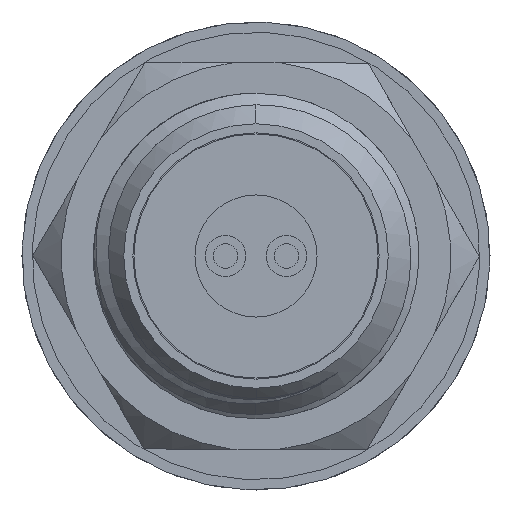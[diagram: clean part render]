
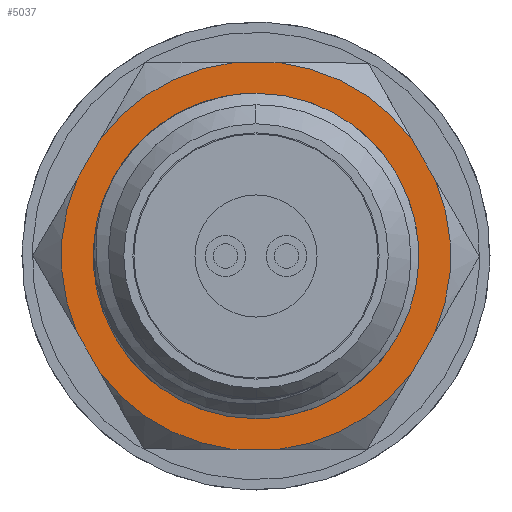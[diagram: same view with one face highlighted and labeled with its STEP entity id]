
A CAD part, left-side view. The second image highlights one B-rep face of the part: STEP entity #5037.
In plain terms, the highlighted planar face has unit normal (-1, 0, 0) as drawn and (0, 0, 1) by its records, which use the part's own axes.
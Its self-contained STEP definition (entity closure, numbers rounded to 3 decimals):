
#78 = AXIS2_PLACEMENT_3D ( 'NONE', #2115, #8845, #3084 ) ;
#406 = CIRCLE ( 'NONE', #7717, 4. ) ;
#616 = ORIENTED_EDGE ( 'NONE', *, *, #5796, .T. ) ;
#618 = CARTESIAN_POINT ( 'NONE',  ( -4., 0., 2. ) ) ;
#647 = VERTEX_POINT ( 'NONE', #9474 ) ;
#760 = DIRECTION ( 'NONE',  ( 0., 0., 1. ) ) ;
#1128 = LINE ( 'NONE', #11192, #3363 ) ;
#1167 = CIRCLE ( 'NONE', #11094, 4.785 ) ;
#1191 = EDGE_CURVE ( 'NONE', #11139, #6913, #2626, .T. ) ;
#1265 = EDGE_CURVE ( 'NONE', #10289, #9952, #6810, .T. ) ;
#1335 = EDGE_CURVE ( 'NONE', #10513, #9229, #1128, .T. ) ;
#1360 = ORIENTED_EDGE ( 'NONE', *, *, #8285, .F. ) ;
#1557 = VERTEX_POINT ( 'NONE', #3845 ) ;
#1570 = ORIENTED_EDGE ( 'NONE', *, *, #11504, .T. ) ;
#1582 = CARTESIAN_POINT ( 'NONE',  ( 4.75, -0.576, 2. ) ) ;
#1669 = ORIENTED_EDGE ( 'NONE', *, *, #1191, .T. ) ;
#1686 = CARTESIAN_POINT ( 'NONE',  ( 0., 0., 2. ) ) ;
#1731 = VERTEX_POINT ( 'NONE', #8967 ) ;
#1994 = VECTOR ( 'NONE', #10614, 1000. ) ;
#2013 = DIRECTION ( 'NONE',  ( 0., 0., -1. ) ) ;
#2115 = CARTESIAN_POINT ( 'NONE',  ( 0., 0., 2. ) ) ;
#2125 = ORIENTED_EDGE ( 'NONE', *, *, #1265, .F. ) ;
#2452 = CARTESIAN_POINT ( 'NONE',  ( 0., 0., 2. ) ) ;
#2609 = LINE ( 'NONE', #6736, #4873 ) ;
#2615 = DIRECTION ( 'NONE',  ( 0., 0., 1. ) ) ;
#2626 = CIRCLE ( 'NONE', #10305, 4.785 ) ;
#2864 = DIRECTION ( 'NONE',  ( 0., 0., -1. ) ) ;
#2957 = ORIENTED_EDGE ( 'NONE', *, *, #12195, .T. ) ;
#3043 = EDGE_LOOP ( 'NONE', ( #3605, #5418, #5374, #2957, #4733, #1669, #6811, #1570, #8019, #11392, #616, #6307 ) ) ;
#3044 = LINE ( 'NONE', #11042, #5573 ) ;
#3045 = CARTESIAN_POINT ( 'NONE',  ( -4.75, 2.742, 2. ) ) ;
#3084 = DIRECTION ( 'NONE',  ( -1., 0., 0. ) ) ;
#3087 = CARTESIAN_POINT ( 'NONE',  ( -4.75, -0.576, 2. ) ) ;
#3195 = CARTESIAN_POINT ( 'NONE',  ( -1.876, -4.402, 2. ) ) ;
#3251 = CARTESIAN_POINT ( 'NONE',  ( 0., 0., 2. ) ) ;
#3356 = CARTESIAN_POINT ( 'NONE',  ( 4.75, 0.576, 2. ) ) ;
#3363 = VECTOR ( 'NONE', #8237, 1000. ) ;
#3399 = DIRECTION ( 'NONE',  ( -1., 0., 0. ) ) ;
#3499 = CARTESIAN_POINT ( 'NONE',  ( 4.75, -2.742, 2. ) ) ;
#3605 = ORIENTED_EDGE ( 'NONE', *, *, #5080, .T. ) ;
#3688 = DIRECTION ( 'NONE',  ( 1., 0., 0. ) ) ;
#3698 = CARTESIAN_POINT ( 'NONE',  ( 2.874, 3.825, 2. ) ) ;
#3845 = CARTESIAN_POINT ( 'NONE',  ( 1.876, 4.402, 2. ) ) ;
#3952 = VERTEX_POINT ( 'NONE', #11825 ) ;
#4215 = DIRECTION ( 'NONE',  ( -1., 0., 0. ) ) ;
#4273 = AXIS2_PLACEMENT_3D ( 'NONE', #1686, #2615, #3688 ) ;
#4484 = DIRECTION ( 'NONE',  ( 0., 0., 1. ) ) ;
#4733 = ORIENTED_EDGE ( 'NONE', *, *, #12392, .T. ) ;
#4745 = CIRCLE ( 'NONE', #11997, 4.785 ) ;
#4782 = CARTESIAN_POINT ( 'NONE',  ( -4.75, 0.576, 2. ) ) ;
#4873 = VECTOR ( 'NONE', #8752, 1000. ) ;
#4899 = DIRECTION ( 'NONE',  ( 0., -1., 0. ) ) ;
#5037 = ADVANCED_FACE ( 'NONE', ( #5985, #8265 ), #8695, .F. ) ;
#5080 = EDGE_CURVE ( 'NONE', #5747, #11288, #9683, .T. ) ;
#5107 = CIRCLE ( 'NONE', #78, 4.785 ) ;
#5282 = EDGE_CURVE ( 'NONE', #6233, #1557, #3044, .T. ) ;
#5374 = ORIENTED_EDGE ( 'NONE', *, *, #1335, .T. ) ;
#5418 = ORIENTED_EDGE ( 'NONE', *, *, #11394, .T. ) ;
#5515 = DIRECTION ( 'NONE',  ( 0., 0., 1. ) ) ;
#5573 = VECTOR ( 'NONE', #9037, 1000. ) ;
#5747 = VERTEX_POINT ( 'NONE', #4782 ) ;
#5789 = CARTESIAN_POINT ( 'NONE',  ( 0., 5.485, 2. ) ) ;
#5796 = EDGE_CURVE ( 'NONE', #1731, #3952, #7072, .T. ) ;
#5827 = CARTESIAN_POINT ( 'NONE',  ( 4., 0., 2. ) ) ;
#5985 = FACE_BOUND ( 'NONE', #9505, .T. ) ;
#6200 = AXIS2_PLACEMENT_3D ( 'NONE', #11558, #2013, #8732 ) ;
#6233 = VERTEX_POINT ( 'NONE', #3698 ) ;
#6307 = ORIENTED_EDGE ( 'NONE', *, *, #9013, .F. ) ;
#6486 = CARTESIAN_POINT ( 'NONE',  ( 0., 0., 2. ) ) ;
#6630 = AXIS2_PLACEMENT_3D ( 'NONE', #2452, #9188, #3399 ) ;
#6647 = CARTESIAN_POINT ( 'NONE',  ( 2.874, -3.825, 2. ) ) ;
#6736 = CARTESIAN_POINT ( 'NONE',  ( 0., -5.485, 2. ) ) ;
#6810 = CIRCLE ( 'NONE', #4273, 4. ) ;
#6811 = ORIENTED_EDGE ( 'NONE', *, *, #10022, .T. ) ;
#6913 = VERTEX_POINT ( 'NONE', #1582 ) ;
#7072 = LINE ( 'NONE', #5789, #1994 ) ;
#7088 = VECTOR ( 'NONE', #4899, 1000. ) ;
#7462 = DIRECTION ( 'NONE',  ( -1., 0., 0. ) ) ;
#7536 = EDGE_CURVE ( 'NONE', #1557, #1731, #5107, .T. ) ;
#7717 = AXIS2_PLACEMENT_3D ( 'NONE', #10237, #4484, #11207 ) ;
#8019 = ORIENTED_EDGE ( 'NONE', *, *, #5282, .T. ) ;
#8237 = DIRECTION ( 'NONE',  ( 0.866, -0.5, 0. ) ) ;
#8265 = FACE_OUTER_BOUND ( 'NONE', #3043, .T. ) ;
#8285 = EDGE_CURVE ( 'NONE', #9952, #10289, #406, .T. ) ;
#8290 = CARTESIAN_POINT ( 'NONE',  ( -2.874, -3.825, 2. ) ) ;
#8399 = DIRECTION ( 'NONE',  ( -1., 0., 0. ) ) ;
#8642 = CIRCLE ( 'NONE', #11867, 4.785 ) ;
#8643 = CARTESIAN_POINT ( 'NONE',  ( 0., 0., 2. ) ) ;
#8695 = PLANE ( 'NONE',  #6200 ) ;
#8732 = DIRECTION ( 'NONE',  ( -1., 0., 0. ) ) ;
#8752 = DIRECTION ( 'NONE',  ( 0.866, 0.5, 0. ) ) ;
#8845 = DIRECTION ( 'NONE',  ( 0., 0., 1. ) ) ;
#8967 = CARTESIAN_POINT ( 'NONE',  ( -1.876, 4.402, 2. ) ) ;
#9013 = EDGE_CURVE ( 'NONE', #5747, #3952, #1167, .T. ) ;
#9037 = DIRECTION ( 'NONE',  ( -0.866, 0.5, 0. ) ) ;
#9188 = DIRECTION ( 'NONE',  ( 0., 0., 1. ) ) ;
#9229 = VERTEX_POINT ( 'NONE', #3195 ) ;
#9258 = CIRCLE ( 'NONE', #6630, 4.785 ) ;
#9474 = CARTESIAN_POINT ( 'NONE',  ( 1.876, -4.402, 2. ) ) ;
#9505 = EDGE_LOOP ( 'NONE', ( #2125, #1360 ) ) ;
#9606 = DIRECTION ( 'NONE',  ( -1., 0., 0. ) ) ;
#9683 = LINE ( 'NONE', #3045, #7088 ) ;
#9728 = CARTESIAN_POINT ( 'NONE',  ( 0., 0., 2. ) ) ;
#9878 = LINE ( 'NONE', #3499, #11788 ) ;
#9952 = VERTEX_POINT ( 'NONE', #618 ) ;
#9986 = DIRECTION ( 'NONE',  ( 0., 0., 1. ) ) ;
#10022 = EDGE_CURVE ( 'NONE', #6913, #11900, #9878, .T. ) ;
#10219 = DIRECTION ( 'NONE',  ( 0., 1., 0. ) ) ;
#10237 = CARTESIAN_POINT ( 'NONE',  ( 0., 0., 2. ) ) ;
#10289 = VERTEX_POINT ( 'NONE', #5827 ) ;
#10305 = AXIS2_PLACEMENT_3D ( 'NONE', #9728, #5515, #8399 ) ;
#10513 = VERTEX_POINT ( 'NONE', #8290 ) ;
#10614 = DIRECTION ( 'NONE',  ( -0.866, -0.5, 0. ) ) ;
#11042 = CARTESIAN_POINT ( 'NONE',  ( 4.75, 2.742, 2. ) ) ;
#11094 = AXIS2_PLACEMENT_3D ( 'NONE', #8643, #2864, #9606 ) ;
#11139 = VERTEX_POINT ( 'NONE', #6647 ) ;
#11192 = CARTESIAN_POINT ( 'NONE',  ( -4.75, -2.742, 2. ) ) ;
#11207 = DIRECTION ( 'NONE',  ( 1., 0., 0. ) ) ;
#11288 = VERTEX_POINT ( 'NONE', #3087 ) ;
#11392 = ORIENTED_EDGE ( 'NONE', *, *, #7536, .T. ) ;
#11394 = EDGE_CURVE ( 'NONE', #11288, #10513, #4745, .T. ) ;
#11504 = EDGE_CURVE ( 'NONE', #11900, #6233, #9258, .T. ) ;
#11558 = CARTESIAN_POINT ( 'NONE',  ( 9.5, 0., 2. ) ) ;
#11788 = VECTOR ( 'NONE', #10219, 1000. ) ;
#11825 = CARTESIAN_POINT ( 'NONE',  ( -2.874, 3.825, 2. ) ) ;
#11867 = AXIS2_PLACEMENT_3D ( 'NONE', #6486, #760, #7462 ) ;
#11900 = VERTEX_POINT ( 'NONE', #3356 ) ;
#11997 = AXIS2_PLACEMENT_3D ( 'NONE', #3251, #9986, #4215 ) ;
#12195 = EDGE_CURVE ( 'NONE', #9229, #647, #8642, .T. ) ;
#12392 = EDGE_CURVE ( 'NONE', #647, #11139, #2609, .T. ) ;
